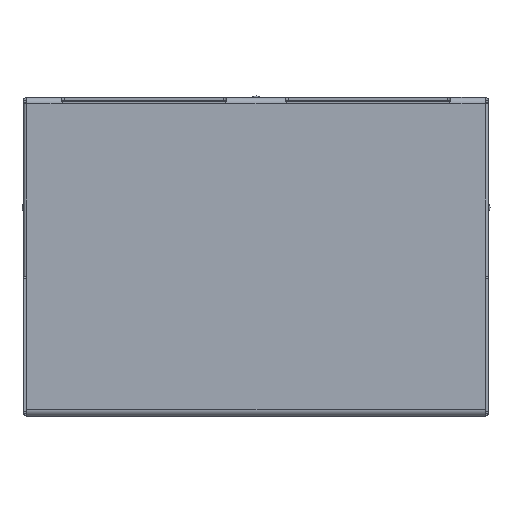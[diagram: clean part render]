
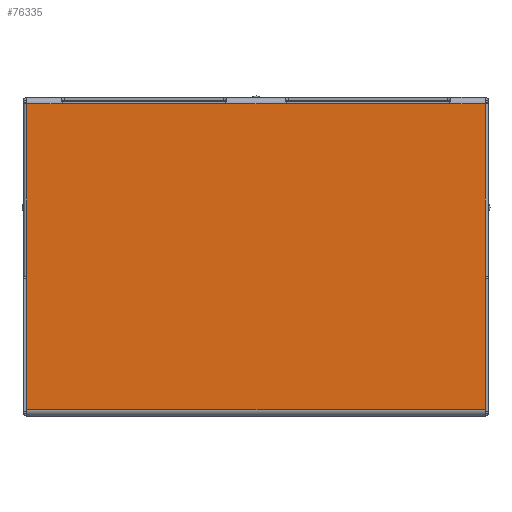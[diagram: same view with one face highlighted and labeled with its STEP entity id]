
A CAD part, left-side view. The second image highlights one B-rep face of the part: STEP entity #76335.
In plain terms, the highlighted planar face has unit normal (-1, 0, 0).
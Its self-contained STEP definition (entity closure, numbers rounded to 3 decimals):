
#69042=DIRECTION('',(0.,0.,1.));
#69043=VECTOR('',#69042,8.85);
#69044=CARTESIAN_POINT('',(-18.874,0.444,
-20.788));
#69045=LINE('',#69044,#69043);
#70584=DIRECTION('',(0.,-1.,0.));
#70585=VECTOR('',#70584,30.4);
#70586=CARTESIAN_POINT('',(-18.874,30.844,
-20.788));
#70587=LINE('',#70586,#70585);
#70600=DIRECTION('',(0.,0.,-1.));
#70601=VECTOR('',#70600,8.85);
#70602=CARTESIAN_POINT('',(-18.874,30.844,
-11.938));
#70603=LINE('',#70602,#70601);
#70673=DIRECTION('',(0.,0.,-1.));
#70674=VECTOR('',#70673,11.45);
#70675=CARTESIAN_POINT('',(-18.874,30.844,
-0.488));
#70676=LINE('',#70675,#70674);
#70764=DIRECTION('',(0.,1.,0.));
#70765=VECTOR('',#70764,10.55);
#70766=CARTESIAN_POINT('',(-18.874,17.794,
-0.488));
#70767=LINE('',#70766,#70765);
#70868=DIRECTION('',(0.,1.,0.));
#70869=VECTOR('',#70868,10.55);
#70870=CARTESIAN_POINT('',(-18.874,2.944,
-0.488));
#70871=LINE('',#70870,#70869);
#71002=DIRECTION('',(0.,0.,1.));
#71003=VECTOR('',#71002,11.45);
#71004=CARTESIAN_POINT('',(-18.874,0.444,
-11.938));
#71005=LINE('',#71004,#71003);
#71035=DIRECTION('',(0.,1.,0.));
#71036=VECTOR('',#71035,2.5);
#71037=CARTESIAN_POINT('',(-18.874,0.444,
-0.488));
#71038=LINE('',#71037,#71036);
#71462=DIRECTION('',(0.,1.,0.));
#71463=VECTOR('',#71462,4.3);
#71464=CARTESIAN_POINT('',(-18.874,13.494,
-0.488));
#71465=LINE('',#71464,#71463);
#71470=DIRECTION('',(0.,1.,0.));
#71471=VECTOR('',#71470,2.5);
#71472=CARTESIAN_POINT('',(-18.874,28.344,
-0.488));
#71473=LINE('',#71472,#71471);
#72358=CARTESIAN_POINT('',(-18.874,30.844,
-20.788));
#72359=VERTEX_POINT('',#72358);
#72378=CARTESIAN_POINT('',(-18.874,0.444,
-20.788));
#72379=VERTEX_POINT('',#72378);
#72380=CARTESIAN_POINT('',(-18.874,0.444,
-11.938));
#72381=VERTEX_POINT('',#72380);
#72792=CARTESIAN_POINT('',(-18.874,30.844,
-11.938));
#72793=VERTEX_POINT('',#72792);
#72794=CARTESIAN_POINT('',(-18.874,30.844,
-0.488));
#72795=VERTEX_POINT('',#72794);
#72796=CARTESIAN_POINT('',(-18.874,28.344,
-0.488));
#72797=VERTEX_POINT('',#72796);
#72798=CARTESIAN_POINT('',(-18.874,17.794,
-0.488));
#72799=VERTEX_POINT('',#72798);
#72800=CARTESIAN_POINT('',(-18.874,13.494,
-0.488));
#72801=VERTEX_POINT('',#72800);
#72802=CARTESIAN_POINT('',(-18.874,2.944,
-0.488));
#72803=VERTEX_POINT('',#72802);
#72804=CARTESIAN_POINT('',(-18.874,0.444,
-0.488));
#72805=VERTEX_POINT('',#72804);
#76310=CARTESIAN_POINT('',(-18.874,15.644,
-10.638));
#76311=DIRECTION('',(1.,0.,0.));
#76312=DIRECTION('',(0.,-1.,0.));
#76313=AXIS2_PLACEMENT_3D('',#76310,#76311,#76312);
#76314=PLANE('',#76313);
#76315=ORIENTED_EDGE('',*,*,#76302,.F.);
#76317=ORIENTED_EDGE('',*,*,#76316,.F.);
#76319=ORIENTED_EDGE('',*,*,#76318,.F.);
#76321=ORIENTED_EDGE('',*,*,#76320,.F.);
#76323=ORIENTED_EDGE('',*,*,#76322,.F.);
#76325=ORIENTED_EDGE('',*,*,#76324,.F.);
#76327=ORIENTED_EDGE('',*,*,#76326,.F.);
#76329=ORIENTED_EDGE('',*,*,#76328,.F.);
#76331=ORIENTED_EDGE('',*,*,#76330,.F.);
#76332=ORIENTED_EDGE('',*,*,#73968,.F.);
#76333=EDGE_LOOP('',(#76315,#76317,#76319,#76321,#76323,#76325,#76327,#76329,
#76331,#76332));
#76334=FACE_OUTER_BOUND('',#76333,.F.);
#76335=ADVANCED_FACE('',(#76334),#76314,.F.);
#73968=EDGE_CURVE('',#72379,#72381,#69045,.T.);
#76302=EDGE_CURVE('',#72359,#72379,#70587,.T.);
#76316=EDGE_CURVE('',#72793,#72359,#70603,.T.);
#76318=EDGE_CURVE('',#72795,#72793,#70676,.T.);
#76320=EDGE_CURVE('',#72797,#72795,#71473,.T.);
#76322=EDGE_CURVE('',#72799,#72797,#70767,.T.);
#76324=EDGE_CURVE('',#72801,#72799,#71465,.T.);
#76326=EDGE_CURVE('',#72803,#72801,#70871,.T.);
#76328=EDGE_CURVE('',#72805,#72803,#71038,.T.);
#76330=EDGE_CURVE('',#72381,#72805,#71005,.T.);
